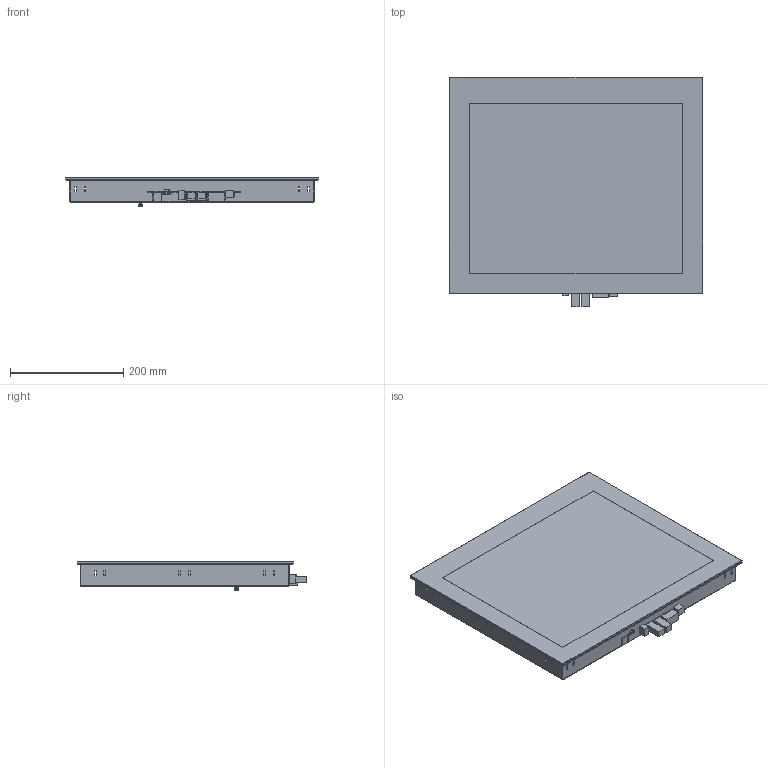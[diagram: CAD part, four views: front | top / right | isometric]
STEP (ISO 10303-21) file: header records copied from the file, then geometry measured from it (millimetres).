
FILE_DESCRIPTION (( 'STEP AP214' ), '1' );
FILE_NAME ('01-230-1933 ETT1933.STEP', '2016-03-09T12:26:32', ( 'SIGMATEK GmbH & Co KG' ), ( 'SIGMATEK GmbH & Co KG' ), 'SwSTEP 2.0', 'SolidWorks 2015', '' );
FILE_SCHEMA (( 'AUTOMOTIVE_DESIGN' ));
Length unit declared in the file: millimetre
Products named in the file (8): 19 Zoll Terminal_HT-Tech_07012016; Halsschraube M2,5x12,3 21101749; ZM1607-3920-10 Batteriedeckel ETTXX33; NTS Einpressnippel MSvernickelt 21100659; ZM1607-3920-10 Batteriedeckel ETTXX33_Ohne Beschriftung; ETT1933 Abdeckhaube f黵 Support; 01-230-1933 ETT1933; 125500 (Leiterplatte) f黵 Support
Assembly tree (7 placements, depth 3):
  01-230-1933 ETT1933
    ETT1933 Abdeckhaube f黵 Support
    ZM1607-3920-10 Batteriedeckel ETTXX33
      ZM1607-3920-10 Batteriedeckel ETTXX33_Ohne Beschriftung
      NTS Einpressnippel MSvernickelt 21100659
    Halsschraube M2,5x12,3 21101749
    19 Zoll Terminal_HT-Tech_07012016
    125500 (Leiterplatte) f黵 Support
Bounding box: 448.32 x 406.8 x 51.5 mm (x, y, z)
Volume: 1116192.2 mm3; surface area: 1701734.2 mm2
Topology: 47 solids, 47 shells, 1176 faces, 2984 edges, 1923 vertices
Faces by surface type: plane 831, cylinder 222, bspline 61, cone 54, torus 8
Entity records: 45591 total; most frequent: CARTESIAN_POINT 8551, ORIENTED_EDGE 5948, DIRECTION 5682, EDGE_CURVE 2974, LINE 2322, VECTOR 2322, VERTEX_POINT 1923, AXIS2_PLACEMENT_3D 1680
